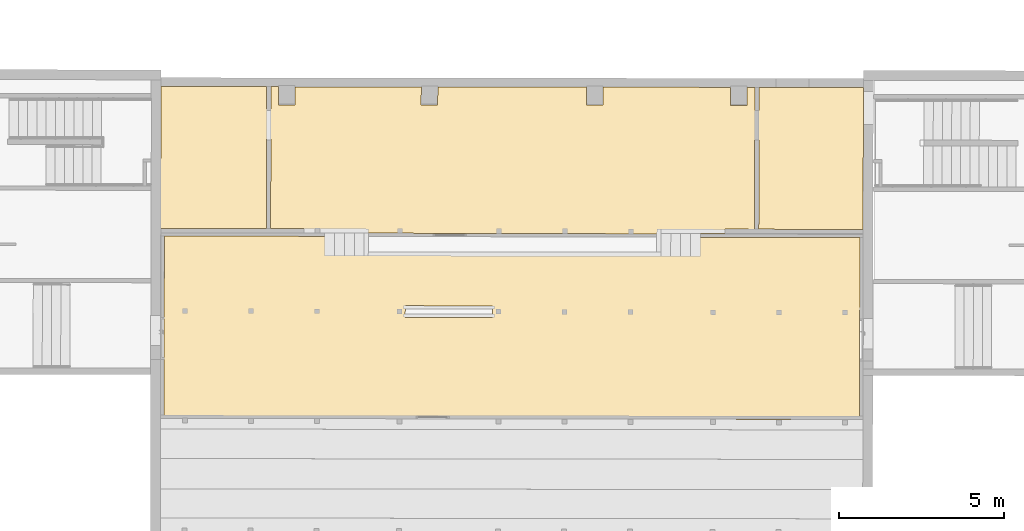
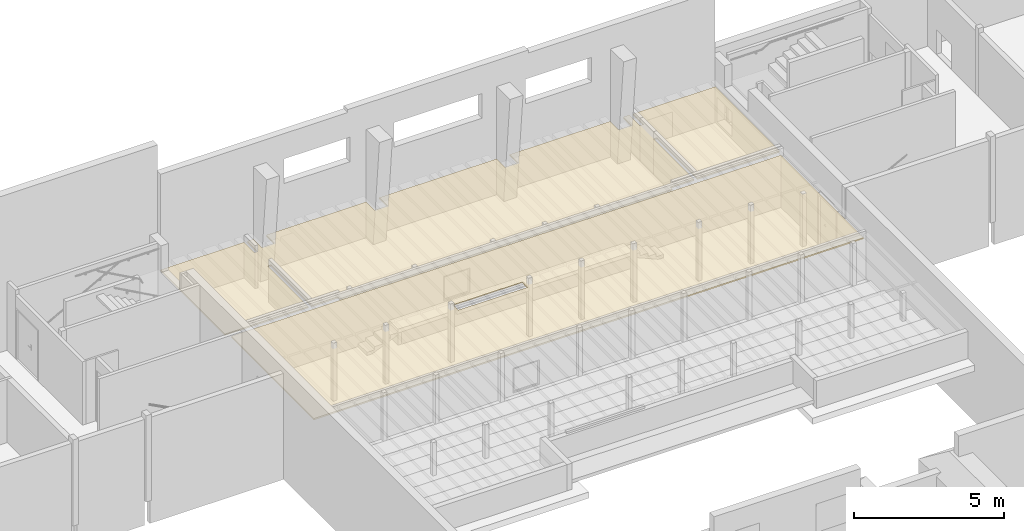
# One storey, part 22 of 24: 2 coverings.
"""IFC2X3 building model written with IfcOpenShell, lengths in metres."""

from ifc_helpers import new_model, entity, si_unit, converted_unit, derived_unit, direction, frame, origin, place, context, subcontext, project, spatial, polyline, outline, extrude, material, layer, layer_set, layer_usage, type_object, element, save


model = new_model("IFC2X3")

# Units and contexts
model_context = context("Model", 3, precision=1e-05, world=origin(), true_north=direction((6.123233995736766e-17, 1.0)))
body_context = subcontext(model_context, "Body", "Model", "MODEL_VIEW")
ifc_project = project(units=[si_unit("LENGTHUNIT", "METRE"), si_unit("AREAUNIT", "SQUARE_METRE"), converted_unit("PLANEANGLEUNIT", "DEGREE", entity("IfcPlaneAngleMeasure", 0.017453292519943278), si_unit("PLANEANGLEUNIT", "RADIAN"), dimensions=[0, 0, 0, 0, 0, 0, 0]), derived_unit("THERMALTRANSMITTANCEUNIT", [(si_unit("MASSUNIT", "GRAM", prefix="KILO"), 1), (si_unit("THERMODYNAMICTEMPERATUREUNIT", "KELVIN"), -1), (si_unit("TIMEUNIT", "SECOND"), -3)])], contexts=[model_context])

# Site, building, storey
site_placement = place(None, frame((1253.6752467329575, 2072.143113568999, 91.49999999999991), z_axis=(0.0, 0.0, 1.0), x_axis=(0.7237211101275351, 0.6900925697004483, 0.0)))
site = spatial("IfcSite", under=ifc_project, at=site_placement, Name="Surface", CompositionType="ELEMENT")
building_placement = place(site_placement, origin())
building = spatial("IfcBuilding", under=site, at=building_placement, CompositionType="ELEMENT")
storey_placement = place(building_placement, frame((0.0, 0.0, -7.049999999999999)))
storey = spatial("IfcBuildingStorey", under=building, at=storey_placement, Name="R-1", CompositionType="ELEMENT", Elevation=-7.049999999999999)

# Coverings
ifc_material_1 = material(Name="Faux-plafond - Trame 600 x 600")
ifc_layer_1 = layer(ifc_material_1, 0.04)
ifc_material_2 = material(Name="OMD_Cloison 100mm CF1h")
ifc_layer_2 = layer(ifc_material_2, 0.018)
ifc_layer_set = layer_set([ifc_layer_1, ifc_layer_2], Name="Plafond composé:plafond cf 1h")
ifc_layer_usage_1 = layer_usage(ifc_layer_set, "AXIS3", "NEGATIVE", 0.057999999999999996)
covering_type = type_object("IfcCoveringType", Name="Plafond composé:plafond cf 1h", PredefinedType="CEILING")
covering_1_placement = place(storey_placement, frame((169.0487876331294, -4.1576531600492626, 2.06199999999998)))
element("IfcCovering", 1, at=covering_1_placement, inside=storey, type_object=covering_type, material=ifc_layer_usage_1, Name="Plafond composé:plafond cf 1h", ObjectType="Plafond composé:plafond cf 1h", PredefinedType="CEILING", context=body_context, shape_type="SweptSolid", body=[
    extrude(outline(polyline([(-10.537020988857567, -2.756641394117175), (10.539273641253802, -2.756641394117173), (10.53701922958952, 2.7609471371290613), (-10.539271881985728, 2.752335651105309), (-10.537020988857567, -2.756641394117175)]), holes=[polyline([(0.5836731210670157, -0.6606534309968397), (0.5836731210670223, -0.31065343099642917), (3.233673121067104, -0.31065343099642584), (3.233673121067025, -0.6606534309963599), (0.5836731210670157, -0.6606534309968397)])]), frame((9.51740418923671, 9.27988558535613, 0.0), z_axis=(0.0, 0.0, 1.0), x_axis=(-0.7219211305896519, 0.6919753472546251, 0.0)), (0.0, 0.0, 1.0), 0.05799999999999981),
])
ifc_layer_usage_2 = layer_usage(ifc_layer_set, "AXIS3", "NEGATIVE", 0.057999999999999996)
covering_2_placement = place(storey_placement, frame((172.93729887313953, -0.061529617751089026, 2.0449999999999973)))
element("IfcCovering", 2, at=covering_2_placement, inside=storey, type_object=covering_type, material=ifc_layer_usage_2, Name="Plafond composé:plafond cf 1h", ObjectType="Plafond composé:plafond cf 1h", PredefinedType="CEILING", context=body_context, shape_type="SweptSolid", body=[
    extrude(outline(polyline([(7.455681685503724, -1.4195762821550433), (10.660736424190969, -1.4195762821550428), (10.666371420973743, 2.880423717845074), (7.461583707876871, 2.880423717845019), (7.457852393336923, 0.16192292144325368), (7.327852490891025, 0.16208321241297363), (7.331583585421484, 2.88042371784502), (6.327131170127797, 2.8804237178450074), (6.327131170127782, 3.0104237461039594), (-6.432932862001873, 3.02793774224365), (-6.43311474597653, 2.8804253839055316), (-7.328604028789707, 2.881529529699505), (-7.331934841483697, 0.18015885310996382), (-7.4619340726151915, 0.1803191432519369), (-7.458604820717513, 2.880423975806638), (-10.619869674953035, 2.879788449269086), (-10.625503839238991, -1.4195762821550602), (-7.464318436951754, -1.4195762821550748), (-7.463357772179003, -0.7196706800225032), (-7.3333578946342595, -0.7198491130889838), (-7.334318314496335, -1.4195762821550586), (-7.097659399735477, -1.419576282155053), (-7.096906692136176, -0.8711807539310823), (-6.596907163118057, -0.8718670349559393), (-6.597658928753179, -1.419576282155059), (-2.737659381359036, -1.4195762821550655), (-2.7369066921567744, -0.871194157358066), (-2.2369071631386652, -0.8718804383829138), (-2.2376589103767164, -1.4195762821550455), (2.272227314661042, -1.419576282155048), (2.2729794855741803, -0.8715717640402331), (2.7729790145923, -0.8722580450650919), (2.772227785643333, -1.4195762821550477), (6.602340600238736, -1.4195762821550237), (6.60309330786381, -0.8711807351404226), (7.1030928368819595, -0.8718670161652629), (7.102341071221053, -1.419576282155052), (7.3256815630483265, -1.419576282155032), (7.326614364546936, -0.7399708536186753), (7.456614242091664, -0.7401492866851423), (7.455681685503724, -1.4195762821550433)])), frame((9.700728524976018, 9.41987138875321, 0.0), z_axis=(0.0, 0.0, 1.0), x_axis=(-0.7228702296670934, 0.6909838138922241, 0.0)), (0.0, 0.0, 1.0), 0.05799999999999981),
])

save(model, "model.ifc")
